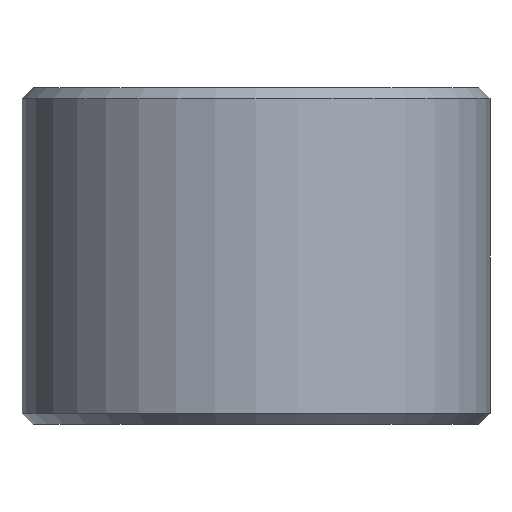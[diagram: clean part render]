
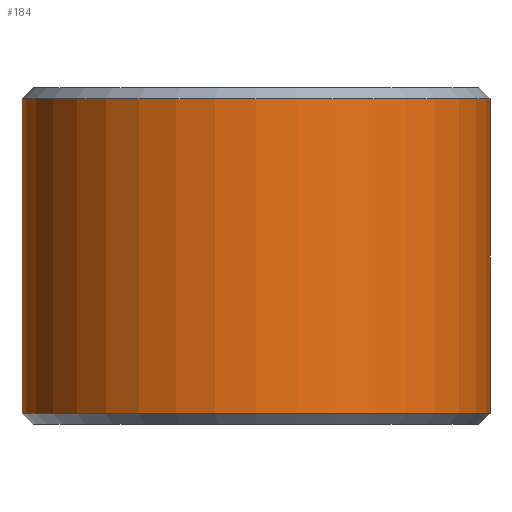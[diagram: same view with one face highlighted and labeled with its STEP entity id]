
A CAD part, front view. The second image highlights one B-rep face of the part: STEP entity #184.
In plain terms, the highlighted cylindrical face has radius 37.5 mm (diameter 75 mm), a partial arc.
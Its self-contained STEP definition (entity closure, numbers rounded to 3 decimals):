
#1 = DIRECTION ( 'NONE',  ( 1., 0., 0. ) ) ;
#16 = VERTEX_POINT ( 'NONE', #208 ) ;
#23 = VERTEX_POINT ( 'NONE', #121 ) ;
#26 = DIRECTION ( 'NONE',  ( 0., 0., -1. ) ) ;
#60 = CARTESIAN_POINT ( 'NONE',  ( 0., 0., 25.2 ) ) ;
#85 = ORIENTED_EDGE ( 'NONE', *, *, #189, .F. ) ;
#91 = DIRECTION ( 'NONE',  ( 0., 0., 1. ) ) ;
#94 = VECTOR ( 'NONE', #304, 1000. ) ;
#96 = DIRECTION ( 'NONE',  ( 0., 0., -1. ) ) ;
#99 = LINE ( 'NONE', #440, #119 ) ;
#106 = CARTESIAN_POINT ( 'NONE',  ( -37.5, 0., 27. ) ) ;
#119 = VECTOR ( 'NONE', #96, 1000. ) ;
#121 = CARTESIAN_POINT ( 'NONE',  ( 37.5, 0., 25.2 ) ) ;
#133 = EDGE_CURVE ( 'NONE', #185, #16, #384, .T. ) ;
#134 = CARTESIAN_POINT ( 'NONE',  ( -37.5, 0., 25.2 ) ) ;
#135 = LINE ( 'NONE', #106, #94 ) ;
#142 = AXIS2_PLACEMENT_3D ( 'NONE', #60, #188, #1 ) ;
#184 = ADVANCED_FACE ( 'NONE', ( #192 ), #229, .T. ) ;
#185 = VERTEX_POINT ( 'NONE', #294 ) ;
#188 = DIRECTION ( 'NONE',  ( 0., 0., -1. ) ) ;
#189 = EDGE_CURVE ( 'NONE', #23, #16, #99, .T. ) ;
#191 = DIRECTION ( 'NONE',  ( -1., 0., 0. ) ) ;
#192 = FACE_OUTER_BOUND ( 'NONE', #326, .T. ) ;
#208 = CARTESIAN_POINT ( 'NONE',  ( 37.5, 0., -25.2 ) ) ;
#219 = ORIENTED_EDGE ( 'NONE', *, *, #133, .T. ) ;
#220 = DIRECTION ( 'NONE',  ( 1., 0., 0. ) ) ;
#229 = CYLINDRICAL_SURFACE ( 'NONE', #306, 37.5 ) ;
#249 = AXIS2_PLACEMENT_3D ( 'NONE', #438, #91, #220 ) ;
#255 = EDGE_CURVE ( 'NONE', #23, #437, #340, .T. ) ;
#262 = CARTESIAN_POINT ( 'NONE',  ( 0., 0., 27. ) ) ;
#294 = CARTESIAN_POINT ( 'NONE',  ( -37.5, 0., -25.2 ) ) ;
#304 = DIRECTION ( 'NONE',  ( 0., 0., -1. ) ) ;
#306 = AXIS2_PLACEMENT_3D ( 'NONE', #262, #26, #191 ) ;
#312 = ORIENTED_EDGE ( 'NONE', *, *, #255, .T. ) ;
#326 = EDGE_LOOP ( 'NONE', ( #85, #312, #362, #219 ) ) ;
#340 = CIRCLE ( 'NONE', #142, 37.5 ) ;
#361 = EDGE_CURVE ( 'NONE', #437, #185, #135, .T. ) ;
#362 = ORIENTED_EDGE ( 'NONE', *, *, #361, .T. ) ;
#384 = CIRCLE ( 'NONE', #249, 37.5 ) ;
#437 = VERTEX_POINT ( 'NONE', #134 ) ;
#438 = CARTESIAN_POINT ( 'NONE',  ( 0., 0., -25.2 ) ) ;
#440 = CARTESIAN_POINT ( 'NONE',  ( 37.5, 0., 27. ) ) ;
